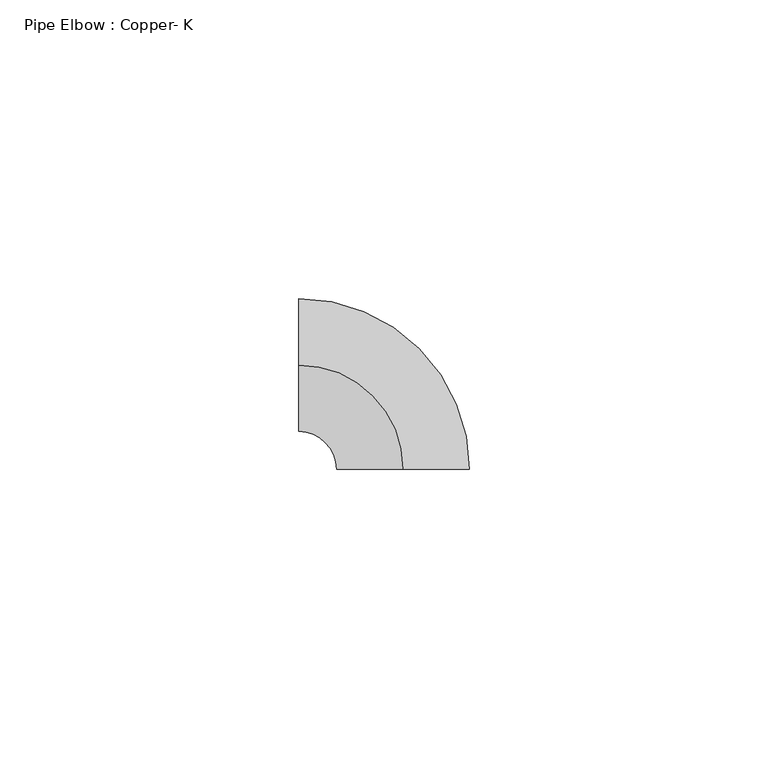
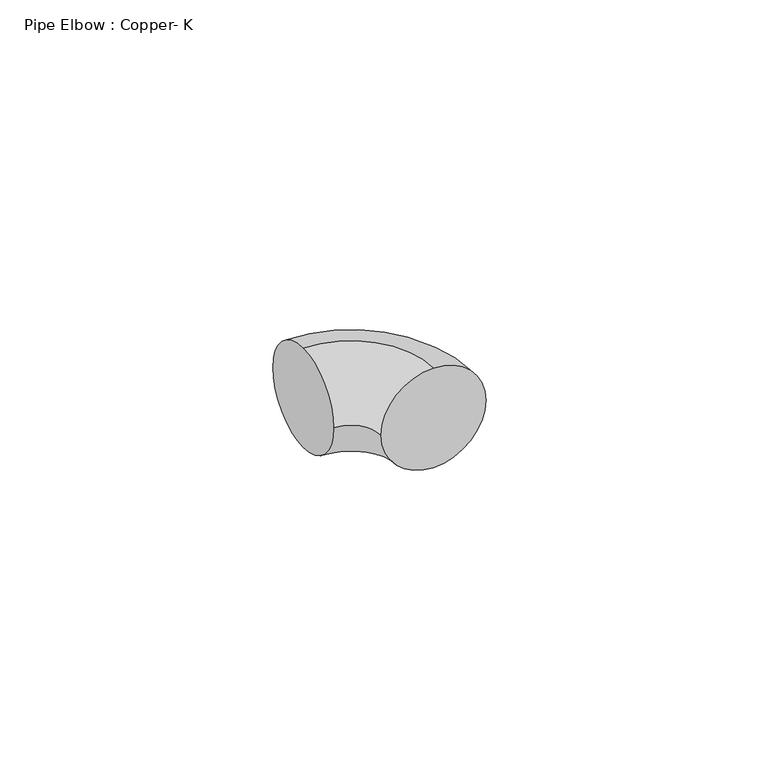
"""IFC4 building model written with IfcOpenShell, lengths in millimetres: pipe fitting geometry, Pipe Elbow : Copper- K."""

import ifcopenshell
import ifcopenshell.guid

model = None  # the IFC model being written
_history = None  # IfcOwnerHistory: only IFC2X3 demands one
_inside = {}  # id of a spatial element -> (the spatial element, [elements in it])
_under = {}  # id of a project, library or spatial element -> (it, [spatial elements below it])
_declared = {}  # id of a project -> (the project, [libraries it declares])
_typed = {}  # id of a type object -> (the type object, [elements of that type])
_made_of = {}  # id of a material, layer set ... -> (it, [elements and type objects made of it])


def new_model(schema):
    """Start an empty IFC model of exactly this schema.

    Asked for "IFC4X3", IfcOpenShell would pick the latest addendum, in which some entities
    have other attributes; the version numbers below select the first issue.
    IFC2X3 requires an IfcOwnerHistory on every rooted entity: one is made here for all.
    """
    global model, _history
    if schema == "IFC4X3":
        model = ifcopenshell.file(schema_version=(4, 3, 0, 0))
    else:
        model = ifcopenshell.file(schema=schema)
    _inside.clear()
    _under.clear()
    _declared.clear()
    _typed.clear()
    _made_of.clear()
    _history = None
    if model.schema == "IFC2X3":
        org = make("IfcOrganization", Name="unknown")
        user = make(
            "IfcPersonAndOrganization",
            ThePerson=make("IfcPerson", FamilyName="unknown"),
            TheOrganization=org,
        )
        app = make(
            "IfcApplication",
            ApplicationDeveloper=org,
            Version="unknown",
            ApplicationFullName="unknown",
            ApplicationIdentifier="unknown",
        )
        _history = make(
            "IfcOwnerHistory",
            OwningUser=user,
            OwningApplication=app,
            ChangeAction="ADDED",
            CreationDate=0,
        )
    return model


def make(cls, **values):
    """One entity of the class cls with the attributes given. An attribute that is None is left unset."""
    return model.create_entity(
        cls, **{name: value for name, value in values.items() if value is not None}
    )


def rooted(cls, **values):
    """An entity with a GlobalId (a new one), such as an element, a storey or a relation."""
    return make(cls, GlobalId=ifcopenshell.guid.new(), OwnerHistory=_history, **values)


def si_unit(unit_type, name, prefix=None):
    """IfcSIUnit, for example si_unit("LENGTHUNIT", "METRE", prefix="MILLI")."""
    return make("IfcSIUnit", UnitType=unit_type, Prefix=prefix, Name=name)


def assignment(units):
    """IfcUnitAssignment: the units of a project."""
    return None if units is None else make("IfcUnitAssignment", Units=units)


def point(xyz):
    """IfcCartesianPoint."""
    return None if xyz is None else make("IfcCartesianPoint", Coordinates=xyz)


def direction(xyz):
    """IfcDirection."""
    return None if xyz is None else make("IfcDirection", DirectionRatios=xyz)


def frame(location, z_axis=None, x_axis=None):
    """IfcAxis2Placement3D, a coordinate frame: its origin and axes. An axis left out is left unset."""
    return make(
        "IfcAxis2Placement3D",
        Location=point(location),
        Axis=direction(z_axis),
        RefDirection=direction(x_axis),
    )


def origin():
    """The frame at (0, 0, 0) with its axes left unset."""
    return frame((0.0, 0.0, 0.0))


def place(relative_to, where):
    """IfcLocalPlacement: puts the frame where relative to a parent placement (None: the world)."""
    return make(
        "IfcLocalPlacement", PlacementRelTo=relative_to, RelativePlacement=where
    )


def context(
    kind, dimensions, precision=None, world=None, true_north=None, identifier=None
):
    """IfcGeometricRepresentationContext, for example the 3D "Model" context."""
    return make(
        "IfcGeometricRepresentationContext",
        ContextIdentifier=identifier,
        ContextType=kind,
        CoordinateSpaceDimension=dimensions,
        Precision=precision,
        WorldCoordinateSystem=world,
        TrueNorth=true_north,
    )


def project(units=None, contexts=None):
    """IfcProject with its units and contexts."""
    return rooted(
        "IfcProject",
        Name="project",
        RepresentationContexts=contexts,
        UnitsInContext=assignment(units),
    )


def spatial(cls, under=None, at=None, **own):
    """A site, building, storey or space (cls), placed at a placement, below another one or the project."""
    s = rooted(cls, ObjectPlacement=at, **own)
    if under is not None:
        _under.setdefault(under.id(), (under, []))[1].append(s)
    return s


def circle_curve(where, radius):
    """IfcCircle in the frame where."""
    return make("IfcCircle", Position=where, Radius=radius)


def ellipse_curve(where, semi_axis1, semi_axis2):
    """IfcEllipse in the frame where."""
    return make(
        "IfcEllipse", Position=where, SemiAxis1=semi_axis1, SemiAxis2=semi_axis2
    )


def trimmed(basis, trim1, trim2, sense, master):
    """IfcTrimmedCurve: the piece of a basis curve between two trims."""
    return make(
        "IfcTrimmedCurve",
        BasisCurve=basis,
        Trim1=trim1,
        Trim2=trim2,
        SenseAgreement=sense,
        MasterRepresentation=master,
    )


def shape(context_of_items, identifier, shape_type, items):
    """IfcShapeRepresentation: the items that make up one representation, for example the "Body"."""
    return make(
        "IfcShapeRepresentation",
        ContextOfItems=context_of_items,
        RepresentationIdentifier=identifier,
        RepresentationType=shape_type,
        Items=items,
    )


def source(mapping_origin, context_of_items, identifier, shape_type, items):
    """IfcRepresentationMap: a shape defined once, which mapped items show again and again."""
    return make(
        "IfcRepresentationMap",
        MappingOrigin=mapping_origin,
        MappedRepresentation=shape(context_of_items, identifier, shape_type, items),
    )


def transform(
    local_origin,
    x_axis=None,
    y_axis=None,
    z_axis=None,
    scale=None,
    scale2=None,
    scale3=None,
    uniform=True,
):
    """IfcCartesianTransformationOperator3D, or its non-uniform kind. x_axis, y_axis, z_axis: its Axis1, 2, 3."""
    if uniform:
        return make(
            "IfcCartesianTransformationOperator3D",
            Axis1=direction(x_axis),
            Axis2=direction(y_axis),
            LocalOrigin=point(local_origin),
            Scale=scale,
            Axis3=direction(z_axis),
        )
    return make(
        "IfcCartesianTransformationOperator3DnonUniform",
        Axis1=direction(x_axis),
        Axis2=direction(y_axis),
        LocalOrigin=point(local_origin),
        Scale=scale,
        Axis3=direction(z_axis),
        Scale2=scale2,
        Scale3=scale3,
    )


def mapped(mapping_source, mapping_target):
    """IfcMappedItem: shows the shape of a source again, moved by a transform."""
    return make(
        "IfcMappedItem", MappingSource=mapping_source, MappingTarget=mapping_target
    )


def made_of(thing, what):
    """Note that an element or type object is made of a material, layer set ...; save() writes the relation."""
    if what is not None:
        _made_of.setdefault(what.id(), (what, []))[1].append(thing)
    return thing


def element(
    cls,
    number,
    at=None,
    inside=None,
    cuts=None,
    type_object=None,
    material=None,
    context=None,
    identifier="Body",
    shape_type=None,
    held_by="IfcProductDefinitionShape",
    body=None,
    shapes=None,
    **own,
):
    """One element of the class cls, such as IfcWall. Its Tag is "e" and its number.

    at: its placement. inside: the storey or other place that contains it. cuts: it is an
    opening in that element (IfcRelVoidsElement). A single representation is given by context,
    identifier, shape_type and body (its items); several are given by shapes. held_by: the class
    of the entity that holds the representations. save() writes the other relations.
    """
    e = rooted(cls, Tag="e%d" % number, ObjectPlacement=at, **own)
    if body is not None:
        shapes = [shape(context, identifier, shape_type, body)]
    if shapes is not None:
        e.Representation = make(held_by, Representations=shapes)
    if inside is not None:
        _inside.setdefault(inside.id(), (inside, []))[1].append(e)
    if cuts is not None:
        rooted(
            "IfcRelVoidsElement", RelatingBuildingElement=cuts, RelatedOpeningElement=e
        )
    if type_object is not None:
        _typed.setdefault(type_object.id(), (type_object, []))[1].append(e)
    return made_of(e, material)


def aggregate(whole, parts):
    """IfcRelAggregates: a whole, such as a stair, and the parts it consists of."""
    return rooted("IfcRelAggregates", RelatingObject=whole, RelatedObjects=parts)


def save(model, path):
    """Write the relations noted so far, then the file.

    IfcRelAggregates (storeys below a building ...), IfcRelContainedInSpatialStructure (elements
    in a storey), IfcRelDefinesByType, IfcRelAssociatesMaterial and IfcRelDeclares: one each for
    every whole, place, type object, material and project.
    """
    for whole, parts in _under.values():
        aggregate(whole, parts)
    for where, things in _inside.values():
        rooted(
            "IfcRelContainedInSpatialStructure",
            RelatedElements=things,
            RelatingStructure=where,
        )
    for kind, things in _typed.values():
        rooted("IfcRelDefinesByType", RelatedObjects=things, RelatingType=kind)
    for what, things in _made_of.values():
        rooted("IfcRelAssociatesMaterial", RelatedObjects=things, RelatingMaterial=what)
    for by, libraries in _declared.values():
        rooted("IfcRelDeclares", RelatingContext=by, RelatedDefinitions=libraries)
    model.write(path)


def plane_surface(at):
    """IfcPlane: the flat surface through the origin of the frame at, square to its z axis."""
    return make("IfcPlane", Position=at)


def revolved_surface(curve, axis_point, axis_direction):
    """IfcSurfaceOfRevolution: the curve turned about the line through axis_point along axis_direction."""
    return make(
        "IfcSurfaceOfRevolution",
        SweptCurve=make("IfcArbitraryOpenProfileDef", ProfileType="CURVE", Curve=curve),
        AxisPosition=make("IfcAxis1Placement", Location=point(axis_point), Axis=direction(axis_direction)),
    )


def advanced_brep(points, edges, surfaces, faces):
    """IfcAdvancedBrep: a solid bounded by faces that lie on surfaces and meet in shared edges.

    An edge is (start, end): straight between two places in points (the first is 0);
    or (start, end, curve); or (start, end, curve, False) where it runs against its curve.
    A face is (place in surfaces, loops), or (place, loops, False) where it looks against
    its surface's normal. A loop lists edges by number (the first is 1), with a minus sign
    where the edge is run from its end to its start. The first loop is the outer one.
    """
    corners = [point(p) for p in points]
    vertices = [make("IfcVertexPoint", VertexGeometry=c) for c in corners]
    made = []
    for start, end, *more in edges:
        made.append(
            make(
                "IfcEdgeCurve",
                EdgeStart=vertices[start],
                EdgeEnd=vertices[end],
                EdgeGeometry=more[0] if more else make("IfcPolyline", Points=[corners[start], corners[end]]),
                SameSense=more[1] if len(more) > 1 else True,
            )
        )
    hull = []
    for where, loops, *sense in faces:
        bounds = []
        for j, loop in enumerate(loops):
            ring = [make("IfcOrientedEdge", EdgeElement=made[abs(k) - 1], Orientation=k > 0) for k in loop]
            bounds.append(
                make(
                    "IfcFaceOuterBound" if j == 0 else "IfcFaceBound",
                    Bound=make("IfcEdgeLoop", EdgeList=ring),
                    Orientation=True,
                )
            )
        hull.append(make("IfcAdvancedFace", Bounds=bounds, FaceSurface=surfaces[where], SameSense=sense[0] if sense else True))
    return make("IfcAdvancedBrep", Outer=make("IfcClosedShell", CfsFaces=hull))


def pipe_elbow_copper_k_b9f4c2fc(model_context):
    return source(origin(), model_context, "Body", "AdvancedBrep", [
        advanced_brep(
        [(-17.4623735, 0.0, 11.1125), (-17.4623735, 11.1125, 0.0), (-17.4623735, 0.0, -11.1125), (-17.4623735, -11.1125, 0.0), (0.0001265, -17.4623735, 11.1125), (-11.1123735, -17.462454, 0.0), (0.0001265, -17.4623735, -11.1125), (11.1126265, -17.462293, 0.0)],
        [
            (0, 1, circle_curve(frame((-17.4623735, 0.0, 0.0), z_axis=(-1.0, 0.0, 0.0), x_axis=(0.0, -1.0, 0.0)), 11.1125)),
            (1, 2, circle_curve(frame((-17.4623735, 0.0, 0.0), z_axis=(-1.0, 0.0, 0.0), x_axis=(0.0, -1.0, 0.0)), 11.1125)),
            (2, 3, circle_curve(frame((-17.4623735, 0.0, 0.0), z_axis=(-1.0, 0.0, 0.0), x_axis=(0.0, -1.0, 0.0)), 11.1125)),
            (3, 0, circle_curve(frame((-17.4623735, 0.0, 0.0), z_axis=(-1.0, 0.0, 0.0), x_axis=(0.0, -1.0, 0.0)), 11.1125)),
            (4, 5, circle_curve(frame((0.0001265, -17.4623735, 0.0), z_axis=(7.242448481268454e-06, -0.9999999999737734, 0.0), x_axis=(-0.9999999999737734, -7.242448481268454e-06, 0.0)), 11.1125)),
            (5, 6, circle_curve(frame((0.0001265, -17.4623735, 0.0), z_axis=(7.242448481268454e-06, -0.9999999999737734, 0.0), x_axis=(-0.9999999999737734, -7.242448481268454e-06, 0.0)), 11.1125)),
            (6, 7, circle_curve(frame((0.0001265, -17.4623735, 0.0), z_axis=(7.242448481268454e-06, -0.9999999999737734, 0.0), x_axis=(-0.9999999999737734, -7.242448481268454e-06, 0.0)), 11.1125)),
            (7, 4, circle_curve(frame((0.0001265, -17.4623735, 0.0), z_axis=(7.242448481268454e-06, -0.9999999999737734, 0.0), x_axis=(-0.9999999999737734, -7.242448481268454e-06, 0.0)), 11.1125)),
            (4, 0, circle_curve(frame((-17.4623735, -17.4625, 11.1125), z_axis=(0.0, 0.0, 1.0), x_axis=(0.0, 1.0, 0.0)), 17.4625)),
            (3, 5, circle_curve(frame((-17.4623735, -17.4625, 0.0), z_axis=(0.0, 0.0, -1.0), x_axis=(0.0, 1.0, 0.0)), 6.35)),
            (2, 6, circle_curve(frame((-17.4623735, -17.4625, -11.1125), z_axis=(0.0, 0.0, -1.0), x_axis=(0.0, 1.0, 0.0)), 17.4625)),
            (1, 7, circle_curve(frame((-17.4623735, -17.4625, 0.0), z_axis=(0.0, 0.0, -1.0), x_axis=(0.0, 1.0, 0.0)), 28.575)),
        ],
        [
            plane_surface(frame((-17.4623735, 0.0, 0.0), z_axis=(-1.0, 0.0, 0.0), x_axis=(0.0, 0.0, 1.0))),
            plane_surface(frame((0.0001265, -17.4623735, 0.0), z_axis=(7.242448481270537e-06, -0.9999999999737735, 0.0), x_axis=(0.0, 0.0, 1.0))),
            revolved_surface(trimmed(ellipse_curve(frame((-17.4623735, 0.0, 0.0), z_axis=(1.0, 0.0, 0.0), x_axis=(0.0, -1.0, 0.0)), 11.1125, 11.1125), [point((-17.4623735, 0.0, 11.1125))], [point((-17.4623735, -11.1125, 0.0))], True, "CARTESIAN"), (-17.4623735, -17.4625, 0.0), (0.0, 0.0, 1.0)),
            revolved_surface(trimmed(ellipse_curve(frame((-17.4623735, 0.0, 0.0), z_axis=(1.0, 0.0, 0.0), x_axis=(0.0, -1.0, 0.0)), 11.1125, 11.1125), [point((-17.4623735, -11.1125, 0.0))], [point((-17.4623735, 0.0, -11.1125))], True, "CARTESIAN"), (-17.4623735, -17.4625, 0.0), (0.0, 0.0, 1.0)),
            revolved_surface(trimmed(ellipse_curve(frame((-17.4623735, 0.0, 0.0), z_axis=(1.0, 0.0, 0.0), x_axis=(0.0, -1.0, 0.0)), 11.1125, 11.1125), [point((-17.4623735, 0.0, -11.1125))], [point((-17.4623735, 11.1125, 0.0))], True, "CARTESIAN"), (-17.4623735, -17.4625, 0.0), (0.0, 0.0, 1.0)),
            revolved_surface(trimmed(ellipse_curve(frame((-17.4623735, 0.0, 0.0), z_axis=(1.0, 0.0, 0.0), x_axis=(0.0, -1.0, 0.0)), 11.1125, 11.1125), [point((-17.4623735, 11.1125, 0.0))], [point((-17.4623735, 0.0, 11.1125))], True, "CARTESIAN"), (-17.4623735, -17.4625, 0.0), (0.0, 0.0, 1.0)),
        ],
        [
            (0, [[1, 2, 3, 4]]),
            (1, [[5, 6, 7, 8]]),
            (2, [[-5, 9, -4, 10]]),
            (3, [[-6, -10, -3, 11]]),
            (4, [[-7, -11, -2, 12]]),
            (5, [[-8, -12, -1, -9]]),
        ],
    ),
        advanced_brep(
        [(-17.4623735, 0.0, 11.1125), (-17.4623735, 11.1125, 0.0), (-17.4623735, 0.0, -11.1125), (-17.4623735, -11.1125, 0.0), (0.0001265, -17.4623735, 11.1125), (-11.1123735, -17.462454, 0.0), (0.0001265, -17.4623735, -11.1125), (11.1126265, -17.462293, 0.0)],
        [
            (0, 1, circle_curve(frame((-17.4623735, 0.0, 0.0), z_axis=(-1.0, 0.0, 0.0), x_axis=(0.0, -1.0, 0.0)), 11.1125)),
            (1, 2, circle_curve(frame((-17.4623735, 0.0, 0.0), z_axis=(-1.0, 0.0, 0.0), x_axis=(0.0, -1.0, 0.0)), 11.1125)),
            (2, 3, circle_curve(frame((-17.4623735, 0.0, 0.0), z_axis=(-1.0, 0.0, 0.0), x_axis=(0.0, -1.0, 0.0)), 11.1125)),
            (3, 0, circle_curve(frame((-17.4623735, 0.0, 0.0), z_axis=(-1.0, 0.0, 0.0), x_axis=(0.0, -1.0, 0.0)), 11.1125)),
            (4, 5, circle_curve(frame((0.0001265, -17.4623735, 0.0), z_axis=(7.242448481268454e-06, -0.9999999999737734, 0.0), x_axis=(-0.9999999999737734, -7.242448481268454e-06, 0.0)), 11.1125)),
            (5, 6, circle_curve(frame((0.0001265, -17.4623735, 0.0), z_axis=(7.242448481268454e-06, -0.9999999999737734, 0.0), x_axis=(-0.9999999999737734, -7.242448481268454e-06, 0.0)), 11.1125)),
            (6, 7, circle_curve(frame((0.0001265, -17.4623735, 0.0), z_axis=(7.242448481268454e-06, -0.9999999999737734, 0.0), x_axis=(-0.9999999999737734, -7.242448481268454e-06, 0.0)), 11.1125)),
            (7, 4, circle_curve(frame((0.0001265, -17.4623735, 0.0), z_axis=(7.242448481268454e-06, -0.9999999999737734, 0.0), x_axis=(-0.9999999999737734, -7.242448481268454e-06, 0.0)), 11.1125)),
            (4, 0, circle_curve(frame((-17.4623735, -17.4625, 11.1125), z_axis=(0.0, 0.0, 1.0), x_axis=(0.0, 1.0, 0.0)), 17.4625)),
            (3, 5, circle_curve(frame((-17.4623735, -17.4625, 0.0), z_axis=(0.0, 0.0, -1.0), x_axis=(0.0, 1.0, 0.0)), 6.35)),
            (2, 6, circle_curve(frame((-17.4623735, -17.4625, -11.1125), z_axis=(0.0, 0.0, -1.0), x_axis=(0.0, 1.0, 0.0)), 17.4625)),
            (1, 7, circle_curve(frame((-17.4623735, -17.4625, 0.0), z_axis=(0.0, 0.0, -1.0), x_axis=(0.0, 1.0, 0.0)), 28.575)),
        ],
        [
            plane_surface(frame((-17.4623735, 0.0, 0.0), z_axis=(-1.0, 0.0, 0.0), x_axis=(0.0, 0.0, 1.0))),
            plane_surface(frame((0.0001265, -17.4623735, 0.0), z_axis=(7.242448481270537e-06, -0.9999999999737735, 0.0), x_axis=(0.0, 0.0, 1.0))),
            revolved_surface(trimmed(ellipse_curve(frame((-17.4623735, 0.0, 0.0), z_axis=(1.0, 0.0, 0.0), x_axis=(0.0, -1.0, 0.0)), 11.1125, 11.1125), [point((-17.4623735, 0.0, 11.1125))], [point((-17.4623735, -11.1125, 0.0))], True, "CARTESIAN"), (-17.4623735, -17.4625, 0.0), (0.0, 0.0, 1.0)),
            revolved_surface(trimmed(ellipse_curve(frame((-17.4623735, 0.0, 0.0), z_axis=(1.0, 0.0, 0.0), x_axis=(0.0, -1.0, 0.0)), 11.1125, 11.1125), [point((-17.4623735, -11.1125, 0.0))], [point((-17.4623735, 0.0, -11.1125))], True, "CARTESIAN"), (-17.4623735, -17.4625, 0.0), (0.0, 0.0, 1.0)),
            revolved_surface(trimmed(ellipse_curve(frame((-17.4623735, 0.0, 0.0), z_axis=(1.0, 0.0, 0.0), x_axis=(0.0, -1.0, 0.0)), 11.1125, 11.1125), [point((-17.4623735, 0.0, -11.1125))], [point((-17.4623735, 11.1125, 0.0))], True, "CARTESIAN"), (-17.4623735, -17.4625, 0.0), (0.0, 0.0, 1.0)),
            revolved_surface(trimmed(ellipse_curve(frame((-17.4623735, 0.0, 0.0), z_axis=(1.0, 0.0, 0.0), x_axis=(0.0, -1.0, 0.0)), 11.1125, 11.1125), [point((-17.4623735, 11.1125, 0.0))], [point((-17.4623735, 0.0, 11.1125))], True, "CARTESIAN"), (-17.4623735, -17.4625, 0.0), (0.0, 0.0, 1.0)),
        ],
        [
            (0, [[1, 2, 3, 4]]),
            (1, [[5, 6, 7, 8]]),
            (2, [[-5, 9, -4, 10]]),
            (3, [[-6, -10, -3, 11]]),
            (4, [[-7, -11, -2, 12]]),
            (5, [[-8, -12, -1, -9]]),
        ],
    ),
    ])


if __name__ == "__main__":
    model = new_model("IFC4")
    model_context = context("Model", 3, world=origin())
    ifc_project = project(units=[si_unit("LENGTHUNIT", "METRE", prefix="MILLI")], contexts=[model_context])
    site = spatial("IfcSite", under=ifc_project)
    building = spatial("IfcBuilding", under=site)
    placement = place(None, origin())
    pipe_elbow_copper_k_shape = pipe_elbow_copper_k_b9f4c2fc(model_context)
    element("IfcPipeFitting", 1, ObjectType="Pipe Elbow : Copper- K", at=placement, inside=building, context=model_context, shape_type="MappedRepresentation", body=[
        mapped(pipe_elbow_copper_k_shape, transform((0.0, 0.0, 0.0), x_axis=(1.0, 0.0, 0.0), y_axis=(0.0, 1.0, 0.0), z_axis=(0.0, 0.0, 1.0))),
    ])
    save(model, "model.ifc")
